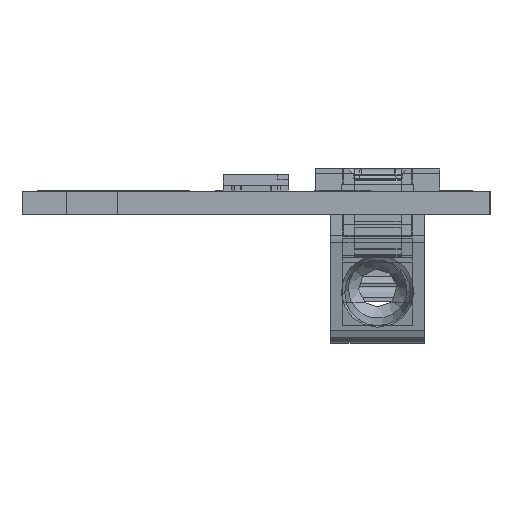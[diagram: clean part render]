
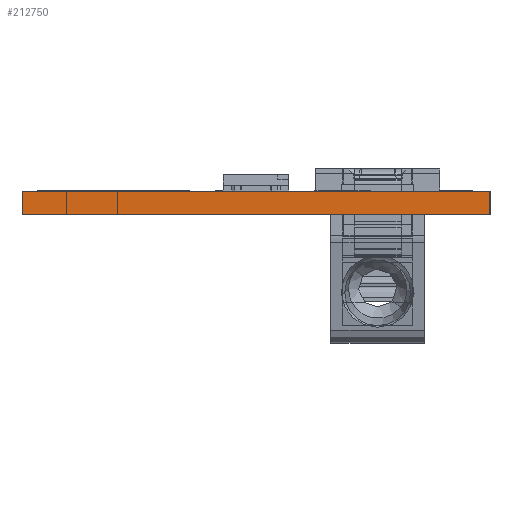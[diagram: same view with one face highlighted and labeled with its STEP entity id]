
A CAD part, left-side view. The second image highlights one B-rep face of the part: STEP entity #212750.
In plain terms, the highlighted planar face has unit normal (-1, 0, 0).
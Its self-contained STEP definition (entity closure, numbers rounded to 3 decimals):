
#199400=CARTESIAN_POINT('',(0.299,44.092,0.));
#199410=DIRECTION('',(0.,1.,0.));
#199420=VECTOR('',#199410,1.);
#199430=LINE('',#199400,#199420);
#199440=CARTESIAN_POINT('',(0.299,44.092,0.));
#199450=VERTEX_POINT('',#199440);
#199460=CARTESIAN_POINT('',(0.299,64.092,0.));
#199470=VERTEX_POINT('',#199460);
#199480=EDGE_CURVE('',#199450,#199470,#199430,.T.);
#212320=CARTESIAN_POINT('',(0.299,44.092,-1.));
#212330=VERTEX_POINT('',#212320);
#212360=CARTESIAN_POINT('',(0.299,44.092,0.));
#212370=DIRECTION('',(0.,0.,-1.));
#212380=VECTOR('',#212370,1.);
#212390=LINE('',#212360,#212380);
#212400=EDGE_CURVE('',#199450,#212330,#212390,.T.);
#212520=CARTESIAN_POINT('',(0.299,44.092,0.));
#212530=DIRECTION('',(1.,0.,0.));
#212540=DIRECTION('',(0.,-1.,0.));
#212550=AXIS2_PLACEMENT_3D('',#212520,#212530,#212540);
#212560=PLANE('',#212550);
#212570=ORIENTED_EDGE('',*,*,#199480,.T.);
#212580=ORIENTED_EDGE('',*,*,#212400,.F.);
#212590=CARTESIAN_POINT('',(0.299,44.092,-1.));
#212600=DIRECTION('',(0.,1.,0.));
#212610=VECTOR('',#212600,1.);
#212620=LINE('',#212590,#212610);
#212630=CARTESIAN_POINT('',(0.299,64.092,-1.));
#212640=VERTEX_POINT('',#212630);
#212650=EDGE_CURVE('',#212330,#212640,#212620,.T.);
#212660=ORIENTED_EDGE('',*,*,#212650,.F.);
#212670=CARTESIAN_POINT('',(0.299,64.092,0.));
#212680=DIRECTION('',(0.,0.,-1.));
#212690=VECTOR('',#212680,1.);
#212700=LINE('',#212670,#212690);
#212710=EDGE_CURVE('',#199470,#212640,#212700,.T.);
#212720=ORIENTED_EDGE('',*,*,#212710,.T.);
#212730=EDGE_LOOP('',(#212720,#212660,#212580,#212570));
#212740=FACE_OUTER_BOUND('',#212730,.T.);
#212750=ADVANCED_FACE('',(#212740),#212560,.F.);
